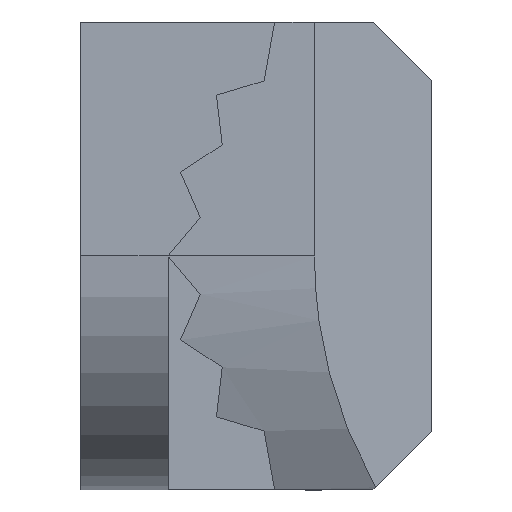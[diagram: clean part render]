
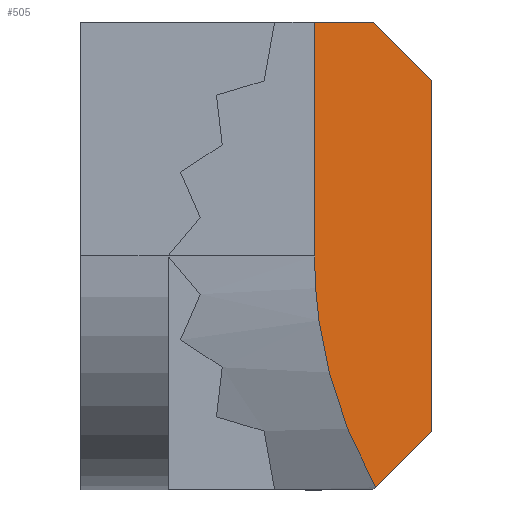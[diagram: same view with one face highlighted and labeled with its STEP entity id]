
A CAD part, left-side view. The second image highlights one B-rep face of the part: STEP entity #505.
In plain terms, the highlighted planar face has unit normal (-0.707, -0.707, 0).
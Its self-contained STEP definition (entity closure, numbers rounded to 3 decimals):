
#23 = CARTESIAN_POINT ( 'NONE',  ( -6.954, -3.546, -3.954 ) ) ;
#28 = ORIENTED_EDGE ( 'NONE', *, *, #260, .F. ) ;
#35 = CARTESIAN_POINT ( 'NONE',  ( -6., -4.5, 3. ) ) ;
#116 = CARTESIAN_POINT ( 'NONE',  ( -6.954, -3.546, -3.954 ) ) ;
#226 = DIRECTION ( 'NONE',  ( 0.707, -0.707, 0. ) ) ;
#250 = CARTESIAN_POINT ( 'NONE',  ( -8., -2.5, 0. ) ) ;
#260 = EDGE_CURVE ( 'NONE', #1580, #724, #1383, .T. ) ;
#309 = CARTESIAN_POINT ( 'NONE',  ( -7., -3.5, 4. ) ) ;
#370 = CARTESIAN_POINT ( 'NONE',  ( -8., -2.5, 0. ) ) ;
#444 = VECTOR ( 'NONE', #869, 1000. ) ;
#449 = LINE ( 'NONE', #498, #444 ) ;
#468 = CARTESIAN_POINT ( 'NONE',  ( -6., -4.5, 4. ) ) ;
#476 = VECTOR ( 'NONE', #754, 1000. ) ;
#487 = LINE ( 'NONE', #867, #476 ) ;
#498 = CARTESIAN_POINT ( 'NONE',  ( -6., -4.5, 3. ) ) ;
#505 = ADVANCED_FACE ( 'NONE', ( #1225 ), #976, .F. ) ;
#526 = VECTOR ( 'NONE', #1007, 1000. ) ;
#530 = LINE ( 'NONE', #1126, #526 ) ;
#562 = ORIENTED_EDGE ( 'NONE', *, *, #1215, .F. ) ;
#571 = VECTOR ( 'NONE', #993, 1000. ) ;
#585 = LINE ( 'NONE', #919, #571 ) ;
#636 = LINE ( 'NONE', #1301, #637 ) ;
#637 = VECTOR ( 'NONE', #1380, 1000. ) ;
#706 = VERTEX_POINT ( 'NONE', #309 ) ;
#724 = VERTEX_POINT ( 'NONE', #250 ) ;
#754 = DIRECTION ( 'NONE',  ( -0.577, 0.577, -0.577 ) ) ;
#770 = CARTESIAN_POINT ( 'NONE',  ( -8., -2.5, -1.394 ) ) ;
#774 = VERTEX_POINT ( 'NONE', #35 ) ;
#796 = VERTEX_POINT ( 'NONE', #1147 ) ;
#807 = EDGE_LOOP ( 'NONE', ( #562, #1333, #1193, #991, #28, #1017 ) ) ;
#864 = EDGE_CURVE ( 'NONE', #724, #1162, #636, .T. ) ;
#867 = CARTESIAN_POINT ( 'NONE',  ( -6., -4.5, -3. ) ) ;
#869 = DIRECTION ( 'NONE',  ( 0., 0., -1. ) ) ;
#877 = AXIS2_PLACEMENT_3D ( 'NONE', #468, #1552, #226 ) ;
#919 = CARTESIAN_POINT ( 'NONE',  ( -6., -4.5, 4. ) ) ;
#962 = EDGE_CURVE ( 'NONE', #1162, #706, #585, .T. ) ;
#976 = PLANE ( 'NONE',  #877 ) ;
#991 = ORIENTED_EDGE ( 'NONE', *, *, #864, .F. ) ;
#993 = DIRECTION ( 'NONE',  ( 0.707, -0.707, 0. ) ) ;
#1007 = DIRECTION ( 'NONE',  ( 0.577, -0.577, -0.577 ) ) ;
#1017 = ORIENTED_EDGE ( 'NONE', *, *, #1109, .F. ) ;
#1030 = EDGE_CURVE ( 'NONE', #706, #774, #530, .T. ) ;
#1087 = CARTESIAN_POINT ( 'NONE',  ( -8., -2.5, 4. ) ) ;
#1098 = CARTESIAN_POINT ( 'NONE',  ( -7.644, -2.856, -2.742 ) ) ;
#1109 = EDGE_CURVE ( 'NONE', #796, #1580, #487, .T. ) ;
#1126 = CARTESIAN_POINT ( 'NONE',  ( -7., -3.5, 4. ) ) ;
#1147 = CARTESIAN_POINT ( 'NONE',  ( -6., -4.5, -3. ) ) ;
#1162 = VERTEX_POINT ( 'NONE', #1087 ) ;
#1193 = ORIENTED_EDGE ( 'NONE', *, *, #962, .F. ) ;
#1215 = EDGE_CURVE ( 'NONE', #774, #796, #449, .T. ) ;
#1225 = FACE_OUTER_BOUND ( 'NONE', #807, .T. ) ;
#1301 = CARTESIAN_POINT ( 'NONE',  ( -8., -2.5, 4. ) ) ;
#1333 = ORIENTED_EDGE ( 'NONE', *, *, #1030, .F. ) ;
#1380 = DIRECTION ( 'NONE',  ( 0., 0., 1. ) ) ;
#1383 =( BOUNDED_CURVE ( )  B_SPLINE_CURVE ( 3, ( #116, #1098, #770, #370 ),
 .UNSPECIFIED., .F., .F. ) 
 B_SPLINE_CURVE_WITH_KNOTS ( ( 4, 4 ),
 ( 5.766, 6.283 ),
 .UNSPECIFIED. ) 
 CURVE ( )  GEOMETRIC_REPRESENTATION_ITEM ( )  RATIONAL_B_SPLINE_CURVE ( ( 1., 0.978, 0.978, 1. ) ) 
 REPRESENTATION_ITEM ( '' )  );
#1552 = DIRECTION ( 'NONE',  ( 0.707, 0.707, 0. ) ) ;
#1580 = VERTEX_POINT ( 'NONE', #23 ) ;
